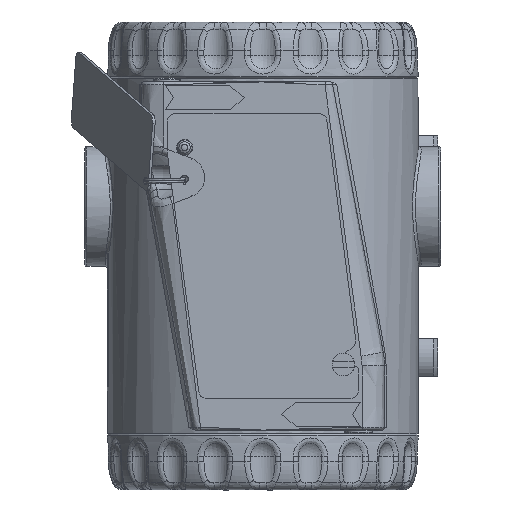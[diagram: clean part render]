
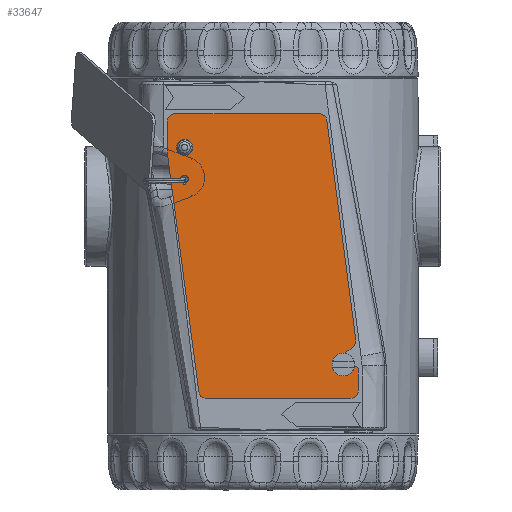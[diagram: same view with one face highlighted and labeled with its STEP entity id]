
A CAD part, left-side view. The second image highlights one B-rep face of the part: STEP entity #33647.
In plain terms, the highlighted planar face has unit normal (-1, 0, 0) as drawn and (0, 0, 1) by its records, which use the part's own axes.
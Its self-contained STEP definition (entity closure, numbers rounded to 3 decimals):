
#1078=PLANE('',#37667);
#1618=FACE_BOUND('',#9138,.T.);
#1619=FACE_BOUND('',#9139,.T.);
#2951=LINE('',#73812,#4495);
#2955=LINE('',#73824,#4499);
#2959=LINE('',#73836,#4503);
#2963=LINE('',#73848,#4507);
#2967=LINE('',#73860,#4511);
#2970=LINE('',#73866,#4514);
#2974=LINE('',#73878,#4518);
#2978=LINE('',#73889,#4522);
#4495=VECTOR('',#45916,10.);
#4499=VECTOR('',#45928,10.);
#4503=VECTOR('',#45940,10.);
#4507=VECTOR('',#45952,10.);
#4511=VECTOR('',#45964,10.);
#4514=VECTOR('',#45969,10.);
#4518=VECTOR('',#45981,10.);
#4522=VECTOR('',#45993,10.);
#6966=FACE_OUTER_BOUND('',#9137,.T.);
#9137=EDGE_LOOP('',(#28909,#28910,#28911,#28912,#28913,#28914,#28915,#28916,
#28917,#28918,#28919,#28920,#28921,#28922,#28923));
#9138=EDGE_LOOP('',(#28924));
#9139=EDGE_LOOP('',(#28925));
#11380=CIRCLE('',#37633,1.35);
#11382=CIRCLE('',#37636,1.);
#11383=CIRCLE('',#37638,2.);
#11385=CIRCLE('',#37642,2.);
#11387=CIRCLE('',#37646,1.);
#11389=CIRCLE('',#37650,2.);
#11391=CIRCLE('',#37654,2.);
#11393=CIRCLE('',#37659,2.);
#11395=CIRCLE('',#37663,2.);
#15390=VERTEX_POINT('',#73792);
#15392=VERTEX_POINT('',#73798);
#15393=VERTEX_POINT('',#73802);
#15394=VERTEX_POINT('',#73803);
#15397=VERTEX_POINT('',#73811);
#15399=VERTEX_POINT('',#73817);
#15401=VERTEX_POINT('',#73823);
#15403=VERTEX_POINT('',#73829);
#15405=VERTEX_POINT('',#73835);
#15407=VERTEX_POINT('',#73841);
#15409=VERTEX_POINT('',#73847);
#15411=VERTEX_POINT('',#73853);
#15413=VERTEX_POINT('',#73859);
#15415=VERTEX_POINT('',#73865);
#15417=VERTEX_POINT('',#73871);
#15419=VERTEX_POINT('',#73877);
#15421=VERTEX_POINT('',#73883);
#19975=EDGE_CURVE('',#15390,#15390,#11380,.T.);
#19978=EDGE_CURVE('',#15392,#15392,#11382,.T.);
#19979=EDGE_CURVE('',#15393,#15394,#11383,.T.);
#19983=EDGE_CURVE('',#15394,#15397,#2951,.T.);
#19986=EDGE_CURVE('',#15397,#15399,#11385,.T.);
#19989=EDGE_CURVE('',#15399,#15401,#2955,.T.);
#19992=EDGE_CURVE('',#15401,#15403,#11387,.T.);
#19995=EDGE_CURVE('',#15403,#15405,#2959,.T.);
#19998=EDGE_CURVE('',#15405,#15407,#11389,.T.);
#20001=EDGE_CURVE('',#15407,#15409,#2963,.T.);
#20004=EDGE_CURVE('',#15409,#15411,#11391,.T.);
#20007=EDGE_CURVE('',#15411,#15413,#2967,.T.);
#20010=EDGE_CURVE('',#15413,#15415,#2970,.T.);
#20013=EDGE_CURVE('',#15415,#15417,#11393,.T.);
#20016=EDGE_CURVE('',#15417,#15419,#2974,.T.);
#20019=EDGE_CURVE('',#15419,#15421,#11395,.T.);
#20022=EDGE_CURVE('',#15421,#15393,#2978,.T.);
#28909=ORIENTED_EDGE('',*,*,#19979,.F.);
#28910=ORIENTED_EDGE('',*,*,#20022,.F.);
#28911=ORIENTED_EDGE('',*,*,#20019,.F.);
#28912=ORIENTED_EDGE('',*,*,#20016,.F.);
#28913=ORIENTED_EDGE('',*,*,#20013,.F.);
#28914=ORIENTED_EDGE('',*,*,#20010,.F.);
#28915=ORIENTED_EDGE('',*,*,#20007,.F.);
#28916=ORIENTED_EDGE('',*,*,#20004,.F.);
#28917=ORIENTED_EDGE('',*,*,#20001,.F.);
#28918=ORIENTED_EDGE('',*,*,#19998,.F.);
#28919=ORIENTED_EDGE('',*,*,#19995,.F.);
#28920=ORIENTED_EDGE('',*,*,#19992,.F.);
#28921=ORIENTED_EDGE('',*,*,#19989,.F.);
#28922=ORIENTED_EDGE('',*,*,#19986,.F.);
#28923=ORIENTED_EDGE('',*,*,#19983,.F.);
#28924=ORIENTED_EDGE('',*,*,#19975,.T.);
#28925=ORIENTED_EDGE('',*,*,#19978,.T.);
#33647=ADVANCED_FACE('',(#6966,#1618,#1619),#1078,.T.);
#37633=AXIS2_PLACEMENT_3D('',#73794,#45897,#45898);
#37636=AXIS2_PLACEMENT_3D('',#73800,#45904,#45905);
#37638=AXIS2_PLACEMENT_3D('',#73804,#45908,#45909);
#37642=AXIS2_PLACEMENT_3D('',#73818,#45921,#45922);
#37646=AXIS2_PLACEMENT_3D('',#73830,#45933,#45934);
#37650=AXIS2_PLACEMENT_3D('',#73842,#45945,#45946);
#37654=AXIS2_PLACEMENT_3D('',#73854,#45957,#45958);
#37659=AXIS2_PLACEMENT_3D('',#73872,#45974,#45975);
#37663=AXIS2_PLACEMENT_3D('',#73884,#45986,#45987);
#37667=AXIS2_PLACEMENT_3D('',#73892,#45997,#45998);
#45897=DIRECTION('center_axis',(0.,0.,-1.));
#45898=DIRECTION('ref_axis',(-1.,0.,0.));
#45904=DIRECTION('center_axis',(0.,0.,-1.));
#45905=DIRECTION('ref_axis',(-1.,0.,0.));
#45908=DIRECTION('center_axis',(0.,0.,-1.));
#45909=DIRECTION('ref_axis',(0.766,0.643,0.));
#45916=DIRECTION('',(0.643,-0.766,0.));
#45921=DIRECTION('center_axis',(0.,0.,1.));
#45922=DIRECTION('ref_axis',(0.766,0.643,0.));
#45928=DIRECTION('',(-0.643,0.766,0.));
#45933=DIRECTION('center_axis',(0.,0.,-1.));
#45934=DIRECTION('ref_axis',(0.,1.,0.));
#45940=DIRECTION('',(1.,0.,0.));
#45945=DIRECTION('center_axis',(0.,0.,-1.));
#45946=DIRECTION('ref_axis',(1.,0.,0.));
#45952=DIRECTION('',(0.,-1.,0.));
#45957=DIRECTION('center_axis',(0.,0.,-1.));
#45958=DIRECTION('ref_axis',(0.131,-0.991,0.));
#45964=DIRECTION('',(-0.991,-0.131,0.));
#45969=DIRECTION('',(-1.,0.,0.));
#45974=DIRECTION('center_axis',(0.,0.,-1.));
#45975=DIRECTION('ref_axis',(-1.,0.,0.));
#45981=DIRECTION('',(0.,1.,0.));
#45986=DIRECTION('center_axis',(0.,0.,-1.));
#45987=DIRECTION('ref_axis',(-0.131,0.991,0.));
#45993=DIRECTION('',(0.991,0.131,0.));
#45997=DIRECTION('center_axis',(0.,0.,1.));
#45998=DIRECTION('ref_axis',(1.,0.,0.));
#73792=CARTESIAN_POINT('',(10.35,4.599,0.7));
#73794=CARTESIAN_POINT('Origin',(9.,4.599,0.7));
#73798=CARTESIAN_POINT('',(18.4,4.599,0.7));
#73800=CARTESIAN_POINT('Origin',(17.4,4.599,0.7));
#73802=CARTESIAN_POINT('',(60.389,50.327,0.7));
#73803=CARTESIAN_POINT('',(62.182,49.63,0.7));
#73804=CARTESIAN_POINT('Origin',(60.65,48.344,0.7));
#73811=CARTESIAN_POINT('',(65.468,45.714,0.7));
#73812=CARTESIAN_POINT('',(65.468,45.714,0.7));
#73817=CARTESIAN_POINT('',(68.532,48.286,0.7));
#73818=CARTESIAN_POINT('Origin',(67.,47.,0.7));
#73823=CARTESIAN_POINT('',(67.633,49.357,0.7));
#73824=CARTESIAN_POINT('',(67.633,49.357,0.7));
#73829=CARTESIAN_POINT('',(68.399,51.,0.7));
#73830=CARTESIAN_POINT('Origin',(68.399,50.,0.7));
#73835=CARTESIAN_POINT('',(74.,51.,0.7));
#73836=CARTESIAN_POINT('',(74.,51.,0.7));
#73841=CARTESIAN_POINT('',(76.,49.,0.7));
#73842=CARTESIAN_POINT('Origin',(74.,49.,0.7));
#73847=CARTESIAN_POINT('',(76.,10.377,0.7));
#73848=CARTESIAN_POINT('',(76.,10.377,0.7));
#73853=CARTESIAN_POINT('',(74.261,8.394,0.7));
#73854=CARTESIAN_POINT('Origin',(74.,10.377,0.7));
#73859=CARTESIAN_POINT('',(10.5,0.,0.7));
#73860=CARTESIAN_POINT('',(10.5,0.,0.7));
#73865=CARTESIAN_POINT('',(2.,0.,0.7));
#73866=CARTESIAN_POINT('',(2.,0.,0.7));
#73871=CARTESIAN_POINT('',(0.,2.,0.7));
#73872=CARTESIAN_POINT('Origin',(2.,2.,0.7));
#73877=CARTESIAN_POINT('',(0.,40.623,0.7));
#73878=CARTESIAN_POINT('',(0.,40.623,0.7));
#73883=CARTESIAN_POINT('',(1.739,42.606,0.7));
#73884=CARTESIAN_POINT('Origin',(2.,40.623,0.7));
#73889=CARTESIAN_POINT('',(60.389,50.327,0.7));
#73892=CARTESIAN_POINT('Origin',(39.077,26.228,0.7));
